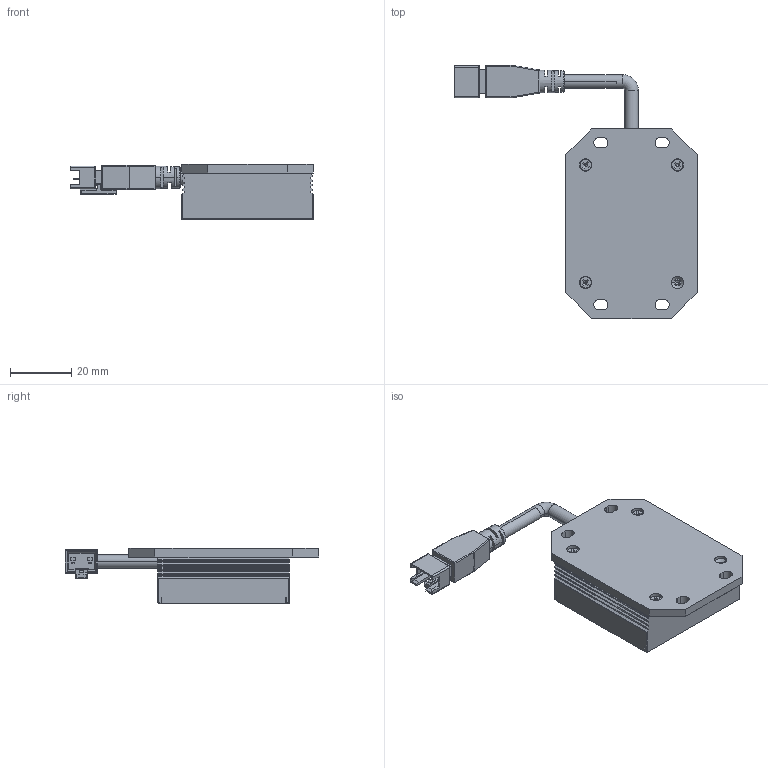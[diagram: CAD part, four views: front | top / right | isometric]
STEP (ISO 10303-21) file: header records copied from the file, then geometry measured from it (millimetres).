
FILE_DESCRIPTION((''),'2;1');
FILE_NAME('PRT0001','2022-11-04T18:17:33',('lizhoupeng'),(''),'CREO PARAMETRIC BY PTC INC, 2020044','CREO PARAMETRIC BY PTC INC, 2020044','');
FILE_SCHEMA(('CONFIG_CONTROL_DESIGN'));
Length unit declared in the file: millimetre
Products named in the file (1): PRT0001
Bounding box: 79.3 x 82.75 x 18 mm (x, y, z)
Volume: 37377.1 mm3; surface area: 11634.2 mm2
Topology: 1 solids, 14 shells, 667 faces, 1693 edges, 1055 vertices
Faces by surface type: plane 407, cylinder 177, cone 43, torus 24, sphere 8, bspline 8
Entity records: 20181 total; most frequent: CARTESIAN_POINT 4049, ORIENTED_EDGE 3354, DIRECTION 3345, EDGE_CURVE 1677, AXIS2_PLACEMENT_3D 1131, VECTOR 1083, LINE 1083, VERTEX_POINT 1055
